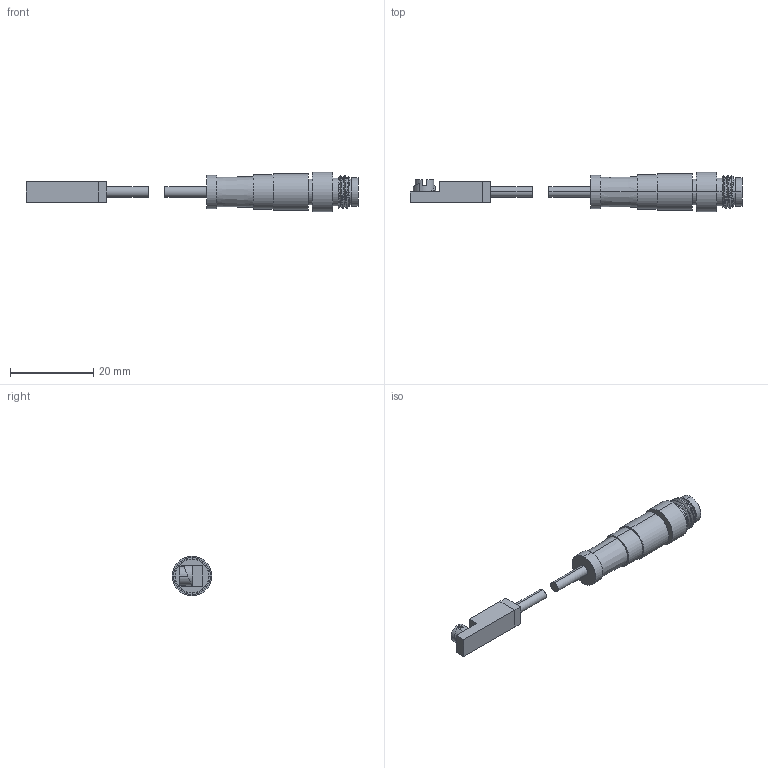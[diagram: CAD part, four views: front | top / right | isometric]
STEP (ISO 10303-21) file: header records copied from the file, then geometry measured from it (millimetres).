
FILE_DESCRIPTION (( 'STEP AP214' ), '1' );
FILE_NAME ('BMTתM8.STEP', '2025-06-11T04:04:51', ( '' ), ( '' ), 'SwSTEP 2.0', 'SolidWorks 2022', '' );
FILE_SCHEMA (( 'AUTOMOTIVE_DESIGN' ));
Length unit declared in the file: millimetre
Products named in the file (3): M8接头; BMT转M8; BMT1P30
Assembly tree (2 placements, depth 2):
  BMT转M8
    BMT1P30
    M8接头
Bounding box: 79.86 x 9.5 x 9.5 mm (x, y, z)
Volume: 2157.8 mm3; surface area: 2155.7 mm2
Topology: 8 solids, 8 shells, 111 faces, 247 edges, 164 vertices
Faces by surface type: plane 65, cylinder 38, cone 5, bspline 3
Entity records: 3831 total; most frequent: CARTESIAN_POINT 1208, DIRECTION 513, ORIENTED_EDGE 494, EDGE_CURVE 247, AXIS2_PLACEMENT_3D 184, VERTEX_POINT 164, LINE 145, VECTOR 145
